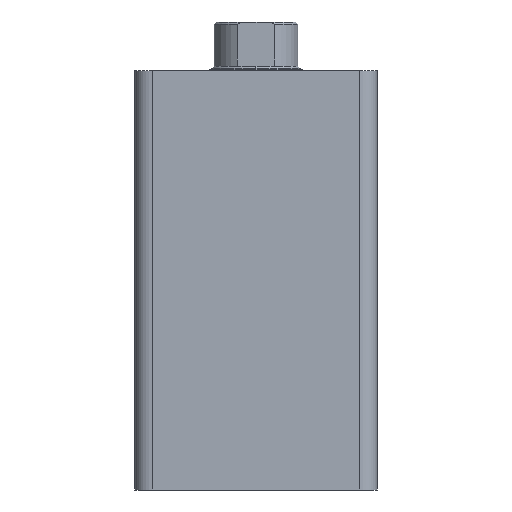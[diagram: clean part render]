
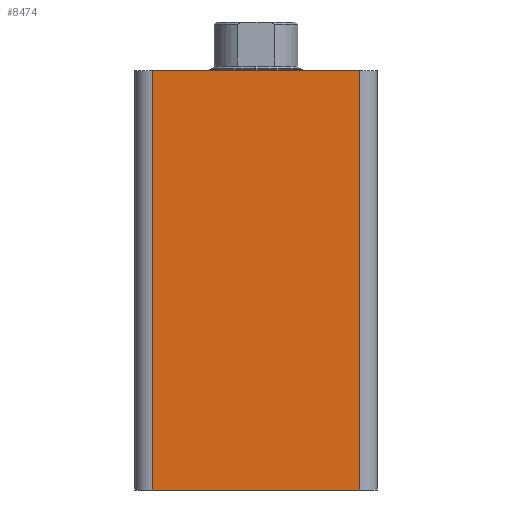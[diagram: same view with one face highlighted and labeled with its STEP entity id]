
A CAD part, front view. The second image highlights one B-rep face of the part: STEP entity #8474.
In plain terms, the highlighted planar face has unit normal (0, -1, 0).
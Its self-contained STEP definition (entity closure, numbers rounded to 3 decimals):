
#57 = CARTESIAN_POINT ( 'NONE',  ( 51., 0., 95. ) ) ;
#64 = LINE ( 'NONE', #1436, #5458 ) ;
#189 = ORIENTED_EDGE ( 'NONE', *, *, #1637, .T. ) ;
#835 = LINE ( 'NONE', #1839, #1162 ) ;
#1093 = FACE_OUTER_BOUND ( 'NONE', #6099, .T. ) ;
#1162 = VECTOR ( 'NONE', #11272, 1000. ) ;
#1367 = CARTESIAN_POINT ( 'NONE',  ( 4., 0., 0. ) ) ;
#1436 = CARTESIAN_POINT ( 'NONE',  ( 4., 0., 95. ) ) ;
#1637 = EDGE_CURVE ( 'NONE', #2450, #1699, #835, .T. ) ;
#1699 = VERTEX_POINT ( 'NONE', #57 ) ;
#1839 = CARTESIAN_POINT ( 'NONE',  ( 51., 0., 95. ) ) ;
#1843 = ORIENTED_EDGE ( 'NONE', *, *, #7109, .F. ) ;
#2151 = DIRECTION ( 'NONE',  ( 0., 0., 1. ) ) ;
#2302 = CARTESIAN_POINT ( 'NONE',  ( 0., 0., 0. ) ) ;
#2450 = VERTEX_POINT ( 'NONE', #7634 ) ;
#2769 = CARTESIAN_POINT ( 'NONE',  ( 4., 0., 95. ) ) ;
#3329 = DIRECTION ( 'NONE',  ( 0., 1., 0. ) ) ;
#3342 = DIRECTION ( 'NONE',  ( 1., 0., 0. ) ) ;
#4794 = VECTOR ( 'NONE', #3342, 1000. ) ;
#4870 = VECTOR ( 'NONE', #7151, 1000. ) ;
#5246 = CARTESIAN_POINT ( 'NONE',  ( 0., 0., 95. ) ) ;
#5458 = VECTOR ( 'NONE', #8563, 1000. ) ;
#6099 = EDGE_LOOP ( 'NONE', ( #12258, #189, #1843, #7287 ) ) ;
#6916 = VERTEX_POINT ( 'NONE', #1367 ) ;
#7109 = EDGE_CURVE ( 'NONE', #8700, #1699, #11114, .T. ) ;
#7151 = DIRECTION ( 'NONE',  ( 1., 0., 0. ) ) ;
#7287 = ORIENTED_EDGE ( 'NONE', *, *, #10589, .T. ) ;
#7634 = CARTESIAN_POINT ( 'NONE',  ( 51., 0., 0. ) ) ;
#7999 = AXIS2_PLACEMENT_3D ( 'NONE', #5246, #3329, #2151 ) ;
#8074 = CARTESIAN_POINT ( 'NONE',  ( 0., 0., 95. ) ) ;
#8389 = LINE ( 'NONE', #2302, #4794 ) ;
#8474 = ADVANCED_FACE ( 'NONE', ( #1093 ), #12518, .F. ) ;
#8563 = DIRECTION ( 'NONE',  ( 0., 0., -1. ) ) ;
#8700 = VERTEX_POINT ( 'NONE', #2769 ) ;
#10589 = EDGE_CURVE ( 'NONE', #8700, #6916, #64, .T. ) ;
#11114 = LINE ( 'NONE', #8074, #4870 ) ;
#11272 = DIRECTION ( 'NONE',  ( 0., 0., 1. ) ) ;
#12258 = ORIENTED_EDGE ( 'NONE', *, *, #12868, .T. ) ;
#12518 = PLANE ( 'NONE',  #7999 ) ;
#12868 = EDGE_CURVE ( 'NONE', #6916, #2450, #8389, .T. ) ;
